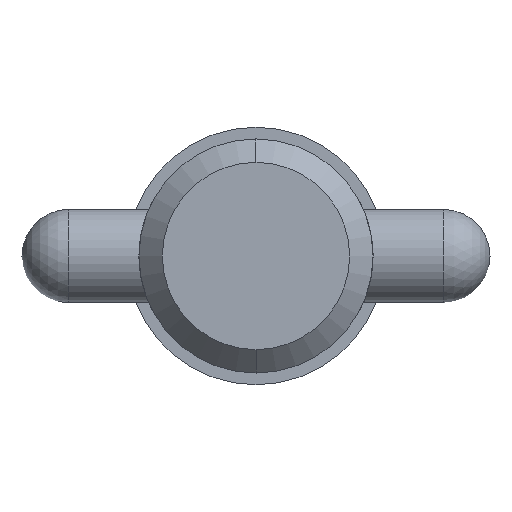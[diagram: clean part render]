
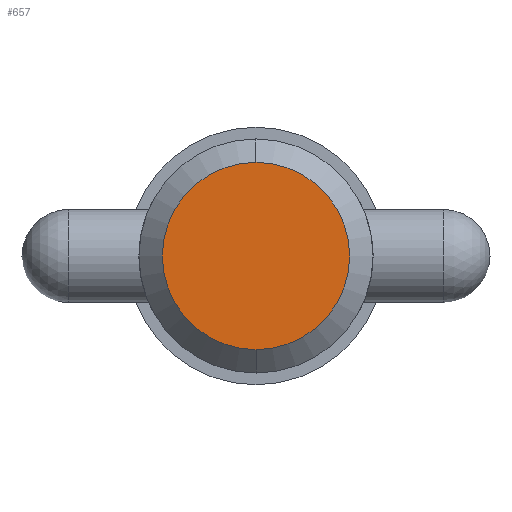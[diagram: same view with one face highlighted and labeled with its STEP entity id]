
A CAD part, left-side view. The second image highlights one B-rep face of the part: STEP entity #657.
In plain terms, the highlighted planar face has unit normal (-1, 0, 0).
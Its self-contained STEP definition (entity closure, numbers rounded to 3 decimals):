
#9 = CIRCLE ( 'NONE', #334, 6.352 ) ;
#52 = CARTESIAN_POINT ( 'NONE',  ( 0., 0., 0. ) ) ;
#85 = ORIENTED_EDGE ( 'NONE', *, *, #858, .F. ) ;
#136 = DIRECTION ( 'NONE',  ( 0., 0., -1. ) ) ;
#297 = AXIS2_PLACEMENT_3D ( 'NONE', #52, #783, #790 ) ;
#299 = CARTESIAN_POINT ( 'NONE',  ( 0., 0., -6.352 ) ) ;
#334 = AXIS2_PLACEMENT_3D ( 'NONE', #515, #763, #838 ) ;
#505 = AXIS2_PLACEMENT_3D ( 'NONE', #713, #1042, #136 ) ;
#515 = CARTESIAN_POINT ( 'NONE',  ( 0., 0., 0. ) ) ;
#543 = EDGE_CURVE ( 'NONE', #746, #853, #9, .T. ) ;
#657 = ADVANCED_FACE ( 'NONE', ( #855 ), #772, .T. ) ;
#713 = CARTESIAN_POINT ( 'NONE',  ( 0., 0., 0. ) ) ;
#746 = VERTEX_POINT ( 'NONE', #299 ) ;
#763 = DIRECTION ( 'NONE',  ( 1., 0., 0. ) ) ;
#772 = PLANE ( 'NONE',  #297 ) ;
#783 = DIRECTION ( 'NONE',  ( -1., 0., 0. ) ) ;
#790 = DIRECTION ( 'NONE',  ( 0., 0., 1. ) ) ;
#838 = DIRECTION ( 'NONE',  ( 0., 0., -1. ) ) ;
#853 = VERTEX_POINT ( 'NONE', #859 ) ;
#855 = FACE_OUTER_BOUND ( 'NONE', #900, .T. ) ;
#858 = EDGE_CURVE ( 'NONE', #853, #746, #960, .T. ) ;
#859 = CARTESIAN_POINT ( 'NONE',  ( 0., 0., 6.352 ) ) ;
#893 = ORIENTED_EDGE ( 'NONE', *, *, #543, .F. ) ;
#900 = EDGE_LOOP ( 'NONE', ( #893, #85 ) ) ;
#960 = CIRCLE ( 'NONE', #505, 6.352 ) ;
#1042 = DIRECTION ( 'NONE',  ( 1., 0., 0. ) ) ;
